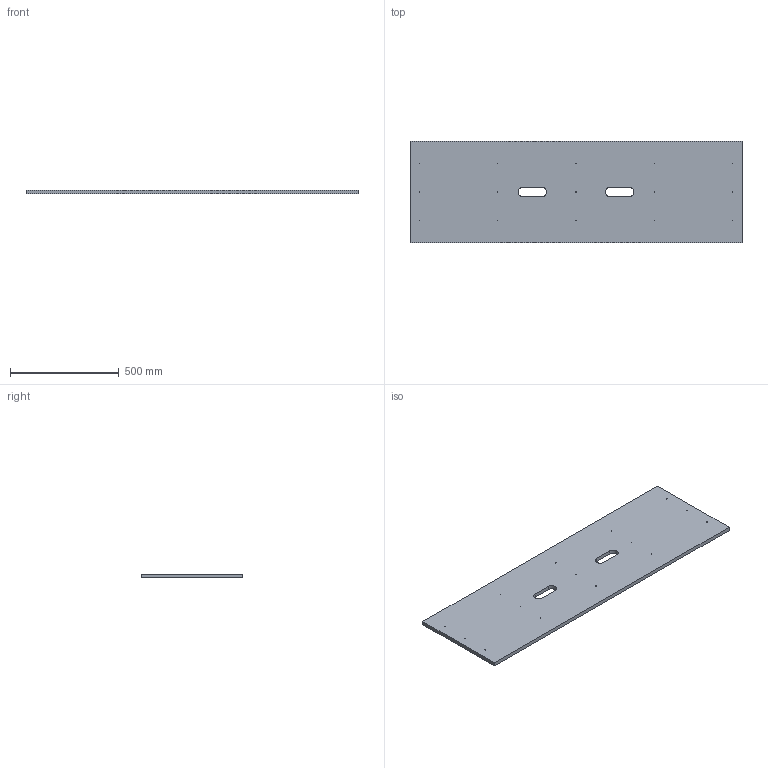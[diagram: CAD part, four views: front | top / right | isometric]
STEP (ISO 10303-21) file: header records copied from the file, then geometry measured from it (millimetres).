
FILE_DESCRIPTION(('Open CASCADE Model'),'2;1');
FILE_NAME('Open CASCADE Shape Model','2026-09-28T10:14:26',('Author'),( 'Open CASCADE'),'Open CASCADE STEP processor 7.9','Open CASCADE 7.9' ,'Unknown');
FILE_SCHEMA(('AUTOMOTIVE_DESIGN { 1 0 10303 214 1 1 1 1 }'));
Length unit declared in the file: millimetre
Products named in the file (1): Open CASCADE STEP translator 7.9 46
Bounding box: 1525 x 464 x 18 mm (x, y, z)
Volume: 12540519.1 mm3; surface area: 1478325 mm2
Topology: 1 solids, 1 shells, 29 faces, 81 edges, 54 vertices
Faces by surface type: cylinder 19, plane 10
Full cylindrical faces by diameter (mm): 2.5 x15
Entity records: 2084 total; most frequent: DIRECTION 341, CARTESIAN_POINT 327, LINE 167, VECTOR 167, ORIENTED_EDGE 162, PCURVE 162, DEFINITIONAL_REPRESENTATION 162, EDGE_CURVE 81
